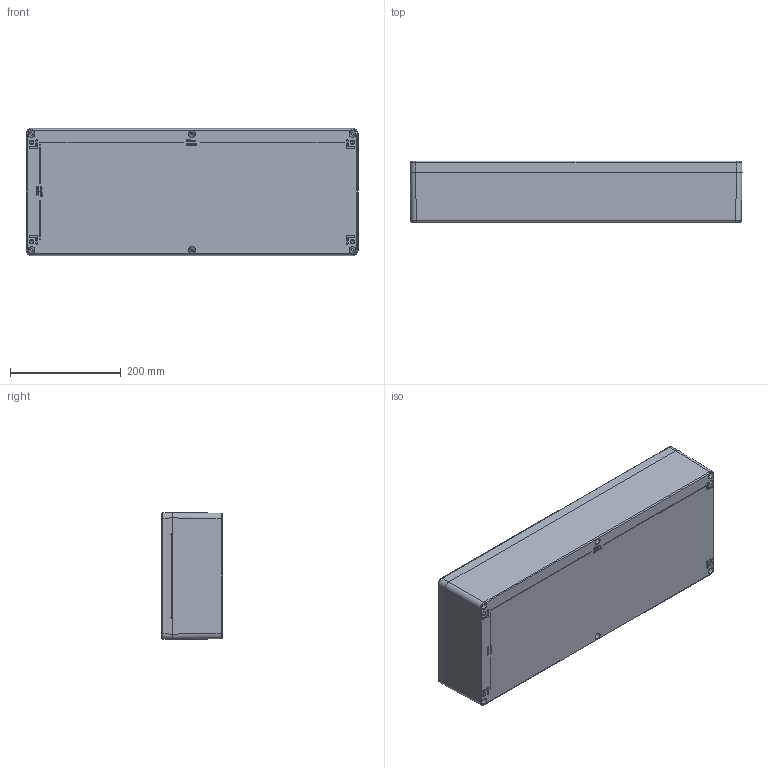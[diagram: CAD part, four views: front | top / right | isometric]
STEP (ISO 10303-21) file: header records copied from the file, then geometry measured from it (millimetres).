
FILE_DESCRIPTION (( 'STEP AP203' ), '1' );
FILE_NAME ('ALU ASSY 600230110.STEP', '2024-08-28T10:47:09', ( '' ), ( '' ), 'SwSTEP 2.0', 'SolidWorks 2018', '' );
FILE_SCHEMA (( 'CONFIG_CONTROL_DESIGN' ));
Length unit declared in the file: millimetre
Products named in the file (7): 82009_Standard.STEP; 04064_Standard-0.STEP; ALU ASSY 600230110; 93134_Standard.STEP; 04064_Standard.STEP; 01236011.STEP; 03064_Standard.STEP
Assembly tree (11 placements, depth 4):
  ALU ASSY 600230110
    01236011.STEP
      04064_Standard.STEP
        04064_Standard-0.STEP
      93134_Standard.STEP  x6
      82009_Standard.STEP
      03064_Standard.STEP
Bounding box: 600 x 111 x 230 mm (x, y, z)
Volume: 2547758.5 mm3; surface area: 931085.8 mm2
Topology: 9 solids, 9 shells, 1651 faces, 4006 edges, 2432 vertices
Faces by surface type: bspline 532, plane 441, cylinder 300, torus 190, cone 188
Entity records: 76777 total; most frequent: CARTESIAN_POINT 44769, ORIENTED_EDGE 7182, DIRECTION 5419, EDGE_CURVE 3591, VERTEX_POINT 2182, AXIS2_PLACEMENT_3D 2085, EDGE_LOOP 1607, ADVANCED_FACE 1496
